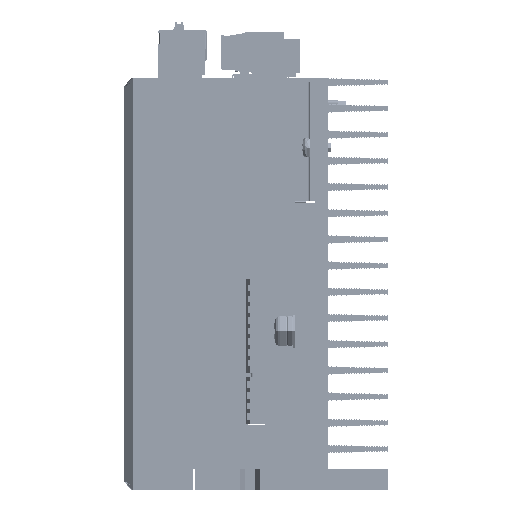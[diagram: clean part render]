
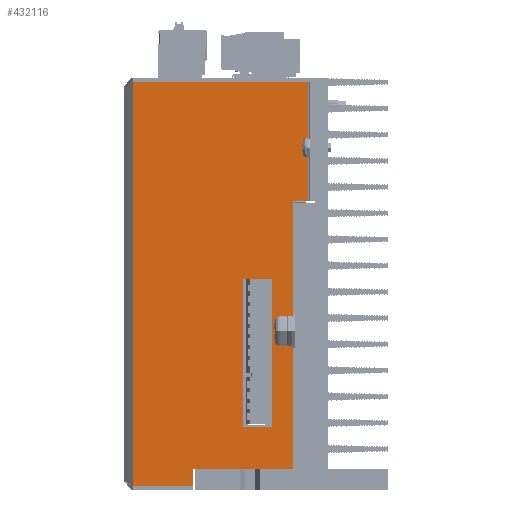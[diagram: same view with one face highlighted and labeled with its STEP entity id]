
A CAD part, left-side view. The second image highlights one B-rep face of the part: STEP entity #432116.
In plain terms, the highlighted planar face has unit normal (-1, 0, 0).
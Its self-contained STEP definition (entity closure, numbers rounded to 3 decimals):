
#430118=DIRECTION('',(0.,0.,1.));
#430119=VECTOR('',#430118,95.5);
#430120=CARTESIAN_POINT('',(-73.,43.,-47.75));
#430121=LINE('',#430120,#430119);
#430129=CARTESIAN_POINT('',(-73.,43.,-47.75));
#430138=CARTESIAN_POINT('',(-73.,43.,47.75));
#430302=DIRECTION('',(0.,-1.,0.));
#430303=VECTOR('',#430302,15.);
#430304=CARTESIAN_POINT('',(-73.,20.,-43.75));
#430305=LINE('',#430304,#430303);
#430306=DIRECTION('',(0.,0.,-1.));
#430307=VECTOR('',#430306,2.);
#430308=CARTESIAN_POINT('',(-73.,20.,-43.75));
#430309=LINE('',#430308,#430307);
#430310=DIRECTION('',(0.,1.,0.));
#430311=VECTOR('',#430310,3.5);
#430312=CARTESIAN_POINT('',(-73.,20.,-45.75));
#430313=LINE('',#430312,#430311);
#430314=DIRECTION('',(0.,0.,1.));
#430315=VECTOR('',#430314,2.);
#430316=CARTESIAN_POINT('',(-73.,23.5,-45.75));
#430317=LINE('',#430316,#430315);
#430318=DIRECTION('',(0.,-1.,0.));
#430319=VECTOR('',#430318,5.2);
#430320=CARTESIAN_POINT('',(-73.,28.7,-43.75));
#430321=LINE('',#430320,#430319);
#430322=DIRECTION('',(0.,0.,1.));
#430323=VECTOR('',#430322,4.);
#430324=CARTESIAN_POINT('',(-73.,28.7,-47.75));
#430325=LINE('',#430324,#430323);
#430326=DIRECTION('',(0.,1.,0.));
#430327=VECTOR('',#430326,14.3);
#430328=CARTESIAN_POINT('',(-73.,28.7,-47.75));
#430329=LINE('',#430328,#430327);
#430330=DIRECTION('',(0.,1.,0.));
#430331=VECTOR('',#430330,3.5);
#430332=CARTESIAN_POINT('',(-73.,1.5,19.75));
#430333=LINE('',#430332,#430331);
#430334=DIRECTION('',(0.,0.,1.));
#430335=VECTOR('',#430334,63.5);
#430336=CARTESIAN_POINT('',(-73.,5.,-43.75));
#430337=LINE('',#430336,#430335);
#430338=DIRECTION('',(0.,0.,1.));
#430339=VECTOR('',#430338,35.);
#430340=CARTESIAN_POINT('',(-73.,17.,-33.75));
#430341=LINE('',#430340,#430339);
#430342=DIRECTION('',(0.,1.,0.));
#430343=VECTOR('',#430342,7.);
#430344=CARTESIAN_POINT('',(-73.,10.,-33.75));
#430345=LINE('',#430344,#430343);
#430346=DIRECTION('',(0.,0.,-1.));
#430347=VECTOR('',#430346,35.);
#430348=CARTESIAN_POINT('',(-73.,10.,1.25));
#430349=LINE('',#430348,#430347);
#430350=DIRECTION('',(0.,-1.,0.));
#430351=VECTOR('',#430350,7.);
#430352=CARTESIAN_POINT('',(-73.,17.,1.25));
#430353=LINE('',#430352,#430351);
#430441=DIRECTION('',(0.,0.,-1.));
#430442=VECTOR('',#430441,28.);
#430443=CARTESIAN_POINT('',(-73.,1.5,47.75));
#430444=LINE('',#430443,#430442);
#430462=DIRECTION('',(0.,1.,0.));
#430463=VECTOR('',#430462,41.5);
#430464=CARTESIAN_POINT('',(-73.,1.5,47.75));
#430465=LINE('',#430464,#430463);
#431280=VERTEX_POINT('',#430138);
#431286=VERTEX_POINT('',#430129);
#431320=CARTESIAN_POINT('',(-73.,28.7,-47.75));
#431321=CARTESIAN_POINT('',(-73.,28.7,-43.75));
#431322=VERTEX_POINT('',#431320);
#431323=VERTEX_POINT('',#431321);
#431324=CARTESIAN_POINT('',(-73.,5.,-43.75));
#431325=CARTESIAN_POINT('',(-73.,5.,19.75));
#431326=VERTEX_POINT('',#431324);
#431327=VERTEX_POINT('',#431325);
#431384=CARTESIAN_POINT('',(-73.,1.5,47.75));
#431385=VERTEX_POINT('',#431384);
#431386=CARTESIAN_POINT('',(-73.,1.5,19.75));
#431387=VERTEX_POINT('',#431386);
#431508=CARTESIAN_POINT('',(-73.,20.,-43.75));
#431509=CARTESIAN_POINT('',(-73.,20.,-45.75));
#431510=VERTEX_POINT('',#431508);
#431511=VERTEX_POINT('',#431509);
#431512=CARTESIAN_POINT('',(-73.,23.5,-45.75));
#431513=VERTEX_POINT('',#431512);
#431514=CARTESIAN_POINT('',(-73.,23.5,-43.75));
#431515=VERTEX_POINT('',#431514);
#431524=CARTESIAN_POINT('',(-73.,17.,-33.75));
#431525=CARTESIAN_POINT('',(-73.,17.,1.25));
#431526=VERTEX_POINT('',#431524);
#431527=VERTEX_POINT('',#431525);
#431528=CARTESIAN_POINT('',(-73.,10.,1.25));
#431529=VERTEX_POINT('',#431528);
#431530=CARTESIAN_POINT('',(-73.,10.,-33.75));
#431531=VERTEX_POINT('',#431530);
#432078=CARTESIAN_POINT('',(-73.,0.,-48.75));
#432079=DIRECTION('',(-1.,0.,0.));
#432080=DIRECTION('',(0.,0.,1.));
#432081=AXIS2_PLACEMENT_3D('',#432078,#432079,#432080);
#432082=PLANE('',#432081);
#432084=ORIENTED_EDGE('',*,*,#432083,.F.);
#432086=ORIENTED_EDGE('',*,*,#432085,.T.);
#432088=ORIENTED_EDGE('',*,*,#432087,.T.);
#432090=ORIENTED_EDGE('',*,*,#432089,.T.);
#432092=ORIENTED_EDGE('',*,*,#432091,.F.);
#432093=ORIENTED_EDGE('',*,*,#432068,.F.);
#432094=ORIENTED_EDGE('',*,*,#432058,.T.);
#432095=ORIENTED_EDGE('',*,*,#431596,.T.);
#432097=ORIENTED_EDGE('',*,*,#432096,.F.);
#432099=ORIENTED_EDGE('',*,*,#432098,.T.);
#432101=ORIENTED_EDGE('',*,*,#432100,.T.);
#432103=ORIENTED_EDGE('',*,*,#432102,.F.);
#432104=EDGE_LOOP('',(#432084,#432086,#432088,#432090,#432092,#432093,#432094,
#432095,#432097,#432099,#432101,#432103));
#432105=FACE_OUTER_BOUND('',#432104,.F.);
#432107=ORIENTED_EDGE('',*,*,#432106,.F.);
#432109=ORIENTED_EDGE('',*,*,#432108,.F.);
#432111=ORIENTED_EDGE('',*,*,#432110,.F.);
#432113=ORIENTED_EDGE('',*,*,#432112,.F.);
#432114=EDGE_LOOP('',(#432107,#432109,#432111,#432113));
#432115=FACE_BOUND('',#432114,.F.);
#432116=ADVANCED_FACE('',(#432105,#432115),#432082,.T.);
#431596=EDGE_CURVE('',#431286,#431280,#430121,.T.);
#432058=EDGE_CURVE('',#431322,#431286,#430329,.T.);
#432068=EDGE_CURVE('',#431322,#431323,#430325,.T.);
#432083=EDGE_CURVE('',#431510,#431326,#430305,.T.);
#432085=EDGE_CURVE('',#431510,#431511,#430309,.T.);
#432087=EDGE_CURVE('',#431511,#431513,#430313,.T.);
#432089=EDGE_CURVE('',#431513,#431515,#430317,.T.);
#432091=EDGE_CURVE('',#431323,#431515,#430321,.T.);
#432096=EDGE_CURVE('',#431385,#431280,#430465,.T.);
#432098=EDGE_CURVE('',#431385,#431387,#430444,.T.);
#432100=EDGE_CURVE('',#431387,#431327,#430333,.T.);
#432102=EDGE_CURVE('',#431326,#431327,#430337,.T.);
#432106=EDGE_CURVE('',#431526,#431527,#430341,.T.);
#432108=EDGE_CURVE('',#431531,#431526,#430345,.T.);
#432110=EDGE_CURVE('',#431529,#431531,#430349,.T.);
#432112=EDGE_CURVE('',#431527,#431529,#430353,.T.);
